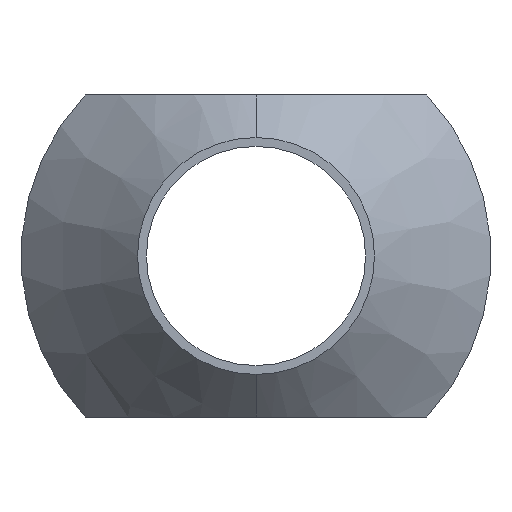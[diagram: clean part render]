
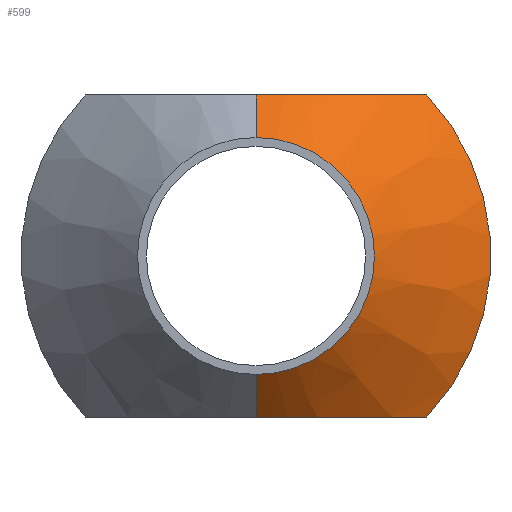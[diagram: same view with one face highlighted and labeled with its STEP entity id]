
A CAD part, front view. The second image highlights one B-rep face of the part: STEP entity #599.
In plain terms, the highlighted conical face has half-angle 45 degrees and reference radius 2.65 mm.
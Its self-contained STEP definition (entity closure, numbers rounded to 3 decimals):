
#4 = CARTESIAN_POINT ( 'NONE',  ( 1.72, 15.53, -3.6 ) ) ;
#5 = CARTESIAN_POINT ( 'NONE',  ( 0.88, 15.252, 3.6 ) ) ;
#7 = DIRECTION ( 'NONE',  ( 0., -1., 0. ) ) ;
#14 = CARTESIAN_POINT ( 'NONE',  ( 0., 16.8, 0. ) ) ;
#58 = LINE ( 'NONE', #538, #795 ) ;
#76 = CARTESIAN_POINT ( 'NONE',  ( 0.88, 15.252, -3.6 ) ) ;
#81 = CARTESIAN_POINT ( 'NONE',  ( 1.72, 15.53, 3.6 ) ) ;
#86 = CARTESIAN_POINT ( 'NONE',  ( 0., 14.2, -2.65 ) ) ;
#88 = VERTEX_POINT ( 'NONE', #883 ) ;
#92 = DIRECTION ( 'NONE',  ( 0., 0., -1. ) ) ;
#109 = EDGE_LOOP ( 'NONE', ( #247, #407, #314, #432, #295, #229 ) ) ;
#122 = AXIS2_PLACEMENT_3D ( 'NONE', #451, #7, #526 ) ;
#125 = VERTEX_POINT ( 'NONE', #806 ) ;
#129 = EDGE_CURVE ( 'NONE', #477, #502, #58, .T. ) ;
#138 = DIRECTION ( 'NONE',  ( 0., 0., 1. ) ) ;
#146 = CARTESIAN_POINT ( 'NONE',  ( 0., 14.2, 2.65 ) ) ;
#154 = CARTESIAN_POINT ( 'NONE',  ( 0.356, 15.163, -3.6 ) ) ;
#156 = CARTESIAN_POINT ( 'NONE',  ( 2.658, 16.019, 3.6 ) ) ;
#190 = B_SPLINE_CURVE_WITH_KNOTS ( 'NONE', 3,
 ( #666, #732, #370, #858, #441, #4, #518, #76, #589, #154, #669, #228 ),
 .UNSPECIFIED., .F., .F.,
 ( 4, 2, 2, 2, 2, 4 ),
 ( 0.022, 0.023, 0.024, 0.025, 0.025, 0.026 ),
 .UNSPECIFIED. ) ;
#228 = CARTESIAN_POINT ( 'NONE',  ( 0., 15.15, -3.6 ) ) ;
#229 = ORIENTED_EDGE ( 'NONE', *, *, #748, .F. ) ;
#231 = CARTESIAN_POINT ( 'NONE',  ( 3.538, 16.594, 3.6 ) ) ;
#247 = ORIENTED_EDGE ( 'NONE', *, *, #461, .F. ) ;
#269 = CIRCLE ( 'NONE', #122, 2.65 ) ;
#279 = CARTESIAN_POINT ( 'NONE',  ( 0., 14.2, 2.65 ) ) ;
#280 = VERTEX_POINT ( 'NONE', #279 ) ;
#295 = ORIENTED_EDGE ( 'NONE', *, *, #445, .F. ) ;
#306 = CARTESIAN_POINT ( 'NONE',  ( 0., 15.15, 3.6 ) ) ;
#314 = ORIENTED_EDGE ( 'NONE', *, *, #415, .F. ) ;
#347 = LINE ( 'NONE', #146, #874 ) ;
#370 = CARTESIAN_POINT ( 'NONE',  ( 3.25, 16.394, -3.6 ) ) ;
#380 = CARTESIAN_POINT ( 'NONE',  ( 0., 15.15, -3.6 ) ) ;
#381 = FACE_OUTER_BOUND ( 'NONE', #109, .T. ) ;
#407 = ORIENTED_EDGE ( 'NONE', *, *, #129, .T. ) ;
#415 = EDGE_CURVE ( 'NONE', #125, #502, #190, .T. ) ;
#432 = ORIENTED_EDGE ( 'NONE', *, *, #513, .T. ) ;
#441 = CARTESIAN_POINT ( 'NONE',  ( 2.354, 15.843, -3.6 ) ) ;
#445 = EDGE_CURVE ( 'NONE', #866, #88, #825, .T. ) ;
#446 = CARTESIAN_POINT ( 'NONE',  ( 0.707, 15.215, 3.6 ) ) ;
#451 = CARTESIAN_POINT ( 'NONE',  ( 0., 14.2, 0. ) ) ;
#461 = EDGE_CURVE ( 'NONE', #477, #280, #269, .T. ) ;
#477 = VERTEX_POINT ( 'NONE', #86 ) ;
#480 = DIRECTION ( 'NONE',  ( 0., 0.707, -0.707 ) ) ;
#487 = CIRCLE ( 'NONE', #566, 5.25 ) ;
#491 = DIRECTION ( 'NONE',  ( 0., 1., 0. ) ) ;
#502 = VERTEX_POINT ( 'NONE', #380 ) ;
#513 = EDGE_CURVE ( 'NONE', #125, #88, #487, .T. ) ;
#518 = CARTESIAN_POINT ( 'NONE',  ( 1.389, 15.395, -3.6 ) ) ;
#523 = CARTESIAN_POINT ( 'NONE',  ( 1.389, 15.395, 3.6 ) ) ;
#526 = DIRECTION ( 'NONE',  ( 0., 0., -1. ) ) ;
#535 = DIRECTION ( 'NONE',  ( 0., -1., 0. ) ) ;
#538 = CARTESIAN_POINT ( 'NONE',  ( 0., 14.2, -2.65 ) ) ;
#557 = CARTESIAN_POINT ( 'NONE',  ( 0., 15.15, 3.6 ) ) ;
#566 = AXIS2_PLACEMENT_3D ( 'NONE', #14, #535, #92 ) ;
#586 = DIRECTION ( 'NONE',  ( 0., 0.707, 0.707 ) ) ;
#589 = CARTESIAN_POINT ( 'NONE',  ( 0.707, 15.215, -3.6 ) ) ;
#596 = CARTESIAN_POINT ( 'NONE',  ( 2.354, 15.843, 3.6 ) ) ;
#599 = ADVANCED_FACE ( 'NONE', ( #381 ), #682, .T. ) ;
#666 = CARTESIAN_POINT ( 'NONE',  ( 3.821, 16.8, -3.6 ) ) ;
#669 = CARTESIAN_POINT ( 'NONE',  ( 0.176, 15.15, -3.6 ) ) ;
#674 = CARTESIAN_POINT ( 'NONE',  ( 3.25, 16.394, 3.6 ) ) ;
#682 = CONICAL_SURFACE ( 'NONE', #760, 2.65, 0.785 ) ;
#732 = CARTESIAN_POINT ( 'NONE',  ( 3.538, 16.594, -3.6 ) ) ;
#735 = CARTESIAN_POINT ( 'NONE',  ( 0.176, 15.15, 3.6 ) ) ;
#738 = CARTESIAN_POINT ( 'NONE',  ( 3.821, 16.8, 3.6 ) ) ;
#748 = EDGE_CURVE ( 'NONE', #280, #866, #347, .T. ) ;
#760 = AXIS2_PLACEMENT_3D ( 'NONE', #839, #491, #138 ) ;
#795 = VECTOR ( 'NONE', #480, 1000. ) ;
#806 = CARTESIAN_POINT ( 'NONE',  ( 3.821, 16.8, -3.6 ) ) ;
#825 = B_SPLINE_CURVE_WITH_KNOTS ( 'NONE', 3,
 ( #306, #735, #861, #446, #5, #523, #81, #596, #156, #674, #231, #738 ),
 .UNSPECIFIED., .F., .F.,
 ( 4, 2, 2, 2, 2, 4 ),
 ( 0.01, 0.011, 0.012, 0.013, 0.014, 0.015 ),
 .UNSPECIFIED. ) ;
#839 = CARTESIAN_POINT ( 'NONE',  ( 0., 14.2, 0. ) ) ;
#858 = CARTESIAN_POINT ( 'NONE',  ( 2.658, 16.019, -3.6 ) ) ;
#861 = CARTESIAN_POINT ( 'NONE',  ( 0.356, 15.163, 3.6 ) ) ;
#866 = VERTEX_POINT ( 'NONE', #557 ) ;
#874 = VECTOR ( 'NONE', #586, 1000. ) ;
#883 = CARTESIAN_POINT ( 'NONE',  ( 3.821, 16.8, 3.6 ) ) ;
